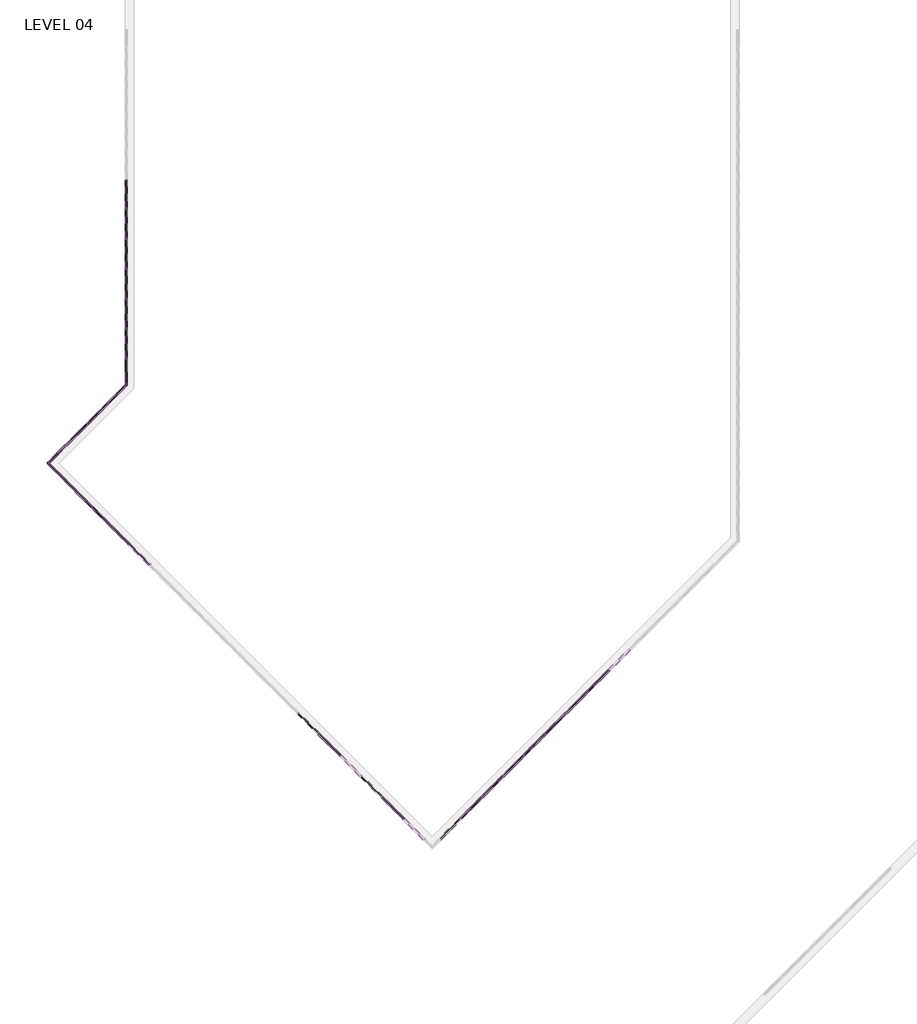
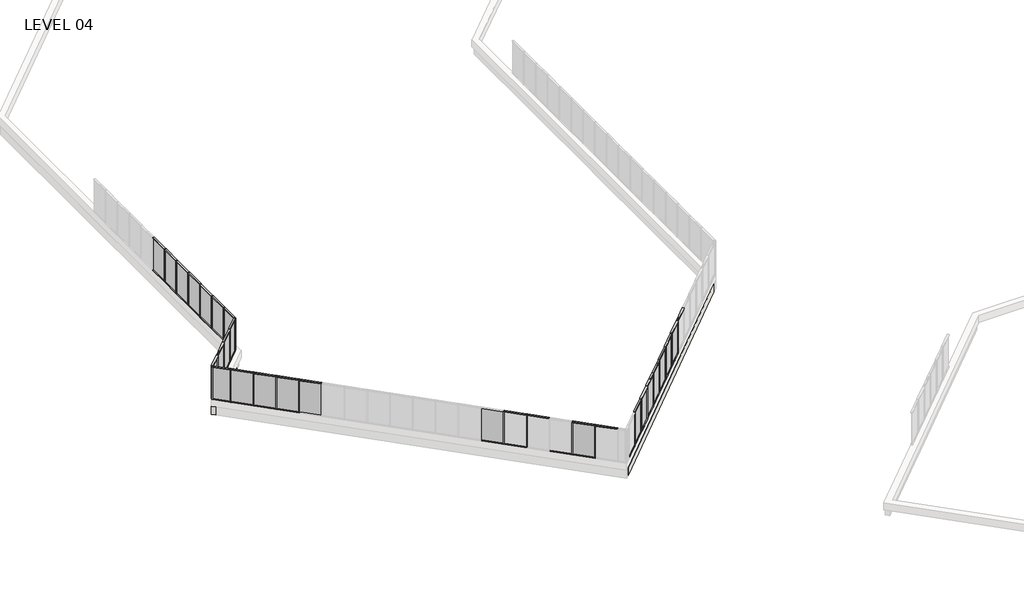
# One storey, part 3 of 17: 84 members, 25 plates, 2 walls.
"""IFC4 building model written with IfcOpenShell, lengths in millimetres."""

from ifc_helpers import new_model, si_unit, origin, place, context, project, spatial, faceted_brep, transform, mapped, element, save
from components import member_5247f267, member_e44af9ab, member_800970d4, member_45eb7f2e, member_53409b32, member_43bac76b, member_0b71a88d, plate_67294edd, plate_aaac5d3d, plate_048e4634, plate_9c66726c, plate_e0fd5134, plate_15429445, plate_0d1907f3, plate_903242d9

model = new_model("IFC4")

# Units and contexts
model_context = context("Model", 3, world=origin())
ifc_project = project(units=[si_unit("LENGTHUNIT", "METRE", prefix="MILLI")], contexts=[model_context])

# Site, building, storey
site = spatial("IfcSite", under=ifc_project)
building = spatial("IfcBuilding", under=site)
storey = spatial("IfcBuildingStorey", under=building, Name="LEVEL 04", Elevation=12052.3)

# Members
placement = place(None, origin())
member_shape = member_5247f267(model_context)
element("IfcMember", 1, ObjectType="Rectangular Mullion : 2\" x 4.5\" rectangular", at=placement, inside=storey, context=model_context, shape_type="MappedRepresentation", body=[
    mapped(member_shape, transform((-32784.0347164, 49110.5675885, 14643.1), x_axis=(0.0, 0.0, 1.0), y_axis=(1.0, 0.0, 0.0), z_axis=(0.0, 1.0, 0.0))),
])
element("IfcMember", 2, ObjectType="Rectangular Mullion : 2\" x 4.5\" rectangular", at=placement, inside=storey, context=model_context, shape_type="MappedRepresentation", body=[
    mapped(member_shape, transform((-32784.0347164, 50634.5675885, 14643.1), x_axis=(0.0, 0.0, 1.0), y_axis=(1.0, 0.0, 0.0), z_axis=(0.0, 1.0, 0.0))),
])
element("IfcMember", 3, ObjectType="Rectangular Mullion : 2\" x 4.5\" rectangular", at=placement, inside=storey, context=model_context, shape_type="MappedRepresentation", body=[
    mapped(member_shape, transform((-32784.0347164, 56730.5675885, 14643.1), x_axis=(0.0, 0.0, 1.0), y_axis=(1.0, 0.0, 0.0), z_axis=(0.0, 1.0, 0.0))),
])
element("IfcMember", 4, ObjectType="Rectangular Mullion : 2\" x 4.5\" rectangular", at=placement, inside=storey, context=model_context, shape_type="MappedRepresentation", body=[
    mapped(member_shape, transform((-32784.0347164, 52158.5675885, 14643.1), x_axis=(0.0, 0.0, 1.0), y_axis=(1.0, 0.0, 0.0), z_axis=(0.0, 1.0, 0.0))),
])
element("IfcMember", 5, ObjectType="Rectangular Mullion : 2\" x 4.5\" rectangular", at=placement, inside=storey, context=model_context, shape_type="MappedRepresentation", body=[
    mapped(member_shape, transform((-32784.0347164, 55206.5675885, 14643.1), x_axis=(0.0, 0.0, 1.0), y_axis=(1.0, 0.0, 0.0), z_axis=(0.0, 1.0, 0.0))),
])
element("IfcMember", 6, ObjectType="Rectangular Mullion : 2\" x 4.5\" rectangular", at=placement, inside=storey, context=model_context, shape_type="MappedRepresentation", body=[
    mapped(member_shape, transform((-32784.0347164, 53682.5675885, 14643.1), x_axis=(0.0, 0.0, 1.0), y_axis=(1.0, 0.0, 0.0), z_axis=(0.0, 1.0, 0.0))),
])
element("IfcMember", 7, ObjectType="Rectangular Mullion : 2\" x 4.5\" rectangular", at=placement, inside=storey, context=model_context, shape_type="MappedRepresentation", body=[
    mapped(member_shape, transform((-8176.5824051, 31737.5637642, 14643.1), x_axis=(0.0, 0.0, 1.0), y_axis=(-0.7071067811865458, 0.7071067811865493, 0.0), z_axis=(-0.7071067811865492, -0.7071067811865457, 0.0))),
])
element("IfcMember", 8, ObjectType="Rectangular Mullion : 2\" x 4.5\" rectangular", at=placement, inside=storey, context=model_context, shape_type="MappedRepresentation", body=[
    mapped(member_shape, transform((-9254.1983379, 30659.9478314, 14643.1), x_axis=(0.0, 0.0, 1.0), y_axis=(-0.7071067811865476, 0.7071067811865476, 0.0), z_axis=(-0.7071067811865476, -0.7071067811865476, 0.0))),
])
element("IfcMember", 9, ObjectType="Rectangular Mullion : 2\" x 4.5\" rectangular", at=placement, inside=storey, context=model_context, shape_type="MappedRepresentation", body=[
    mapped(member_shape, transform((-10331.8142707, 29582.3318986, 14643.1), x_axis=(0.0, 0.0, 1.0), y_axis=(-0.7071067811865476, 0.7071067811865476, 0.0), z_axis=(-0.7071067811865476, -0.7071067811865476, 0.0))),
])
element("IfcMember", 10, ObjectType="Rectangular Mullion : 2\" x 4.5\" rectangular", at=placement, inside=storey, context=model_context, shape_type="MappedRepresentation", body=[
    mapped(member_shape, transform((-11409.4302035, 28504.7159658, 14643.1), x_axis=(0.0, 0.0, 1.0), y_axis=(-0.7071067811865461, 0.707106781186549, 0.0), z_axis=(-0.707106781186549, -0.7071067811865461, 0.0))),
])
element("IfcMember", 11, ObjectType="Rectangular Mullion : 2\" x 4.5\" rectangular", at=placement, inside=storey, context=model_context, shape_type="MappedRepresentation", body=[
    mapped(member_shape, transform((-13564.6768709, 26349.4692984, 14643.1), x_axis=(0.0, 0.0, 1.0), y_axis=(-0.7071067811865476, 0.7071067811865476, 0.0), z_axis=(-0.7071067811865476, -0.7071067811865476, 0.0))),
])
element("IfcMember", 12, ObjectType="Rectangular Mullion : 2\" x 4.5\" rectangular", at=placement, inside=storey, context=model_context, shape_type="MappedRepresentation", body=[
    mapped(member_shape, transform((-12487.0535372, 27427.0926321, 14643.1), x_axis=(0.0, 0.0, 1.0), y_axis=(-0.7071067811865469, 0.7071067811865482, 0.0), z_axis=(-0.7071067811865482, -0.7071067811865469, 0.0))),
])
element("IfcMember", 13, ObjectType="Rectangular Mullion : 2\" x 4.5\" rectangular", at=placement, inside=storey, context=model_context, shape_type="MappedRepresentation", body=[
    mapped(member_shape, transform((-14642.3076054, 25271.8385639, 14643.1), x_axis=(0.0, 0.0, 1.0), y_axis=(-0.7071067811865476, 0.7071067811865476, 0.0), z_axis=(-0.7071067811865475, -0.7071067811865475, 0.0))),
])
element("IfcMember", 14, ObjectType="Rectangular Mullion : 2\" x 4.5\" rectangular", at=placement, inside=storey, context=model_context, shape_type="MappedRepresentation", body=[
    mapped(member_shape, transform((-15719.9383399, 24194.2078294, 14643.1), x_axis=(0.0, 0.0, 1.0), y_axis=(-0.7071067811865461, 0.7071067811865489, 0.0), z_axis=(-0.7071067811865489, -0.7071067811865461, 0.0))),
])
element("IfcMember", 15, ObjectType="Rectangular Mullion : 2\" x 4.5\" rectangular", at=placement, inside=storey, context=model_context, shape_type="MappedRepresentation", body=[
    mapped(member_shape, transform((-19717.6908029, 25235.9175394, 14643.1), x_axis=(0.0, 0.0, 1.0), y_axis=(0.7071067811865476, 0.7071067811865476, 0.0), z_axis=(-0.7071067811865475, 0.7071067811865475, 0.0))),
])
element("IfcMember", 16, ObjectType="Rectangular Mullion : 2\" x 4.5\" rectangular", at=placement, inside=storey, context=model_context, shape_type="MappedRepresentation", body=[
    mapped(member_shape, transform((-22950.547272, 28468.7740085, 14643.1), x_axis=(0.0, 0.0, 1.0), y_axis=(0.7071067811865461, 0.707106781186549, 0.0), z_axis=(-0.707106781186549, 0.7071067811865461, 0.0))),
])
element("IfcMember", 17, ObjectType="Rectangular Mullion : 2\" x 4.5\" rectangular", at=placement, inside=storey, context=model_context, shape_type="MappedRepresentation", body=[
    mapped(member_shape, transform((-18640.0600684, 24158.2868049, 14643.1), x_axis=(0.0, 0.0, 1.0), y_axis=(0.7071067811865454, 0.7071067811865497, 0.0), z_axis=(-0.7071067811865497, 0.7071067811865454, 0.0))),
])
element("IfcMember", 18, ObjectType="Rectangular Mullion : 2\" x 4.5\" rectangular", at=placement, inside=storey, context=model_context, shape_type="MappedRepresentation", body=[
    mapped(member_shape, transform((-21872.9344047, 27391.1611412, 14643.1), x_axis=(0.0, 0.0, 1.0), y_axis=(0.7071067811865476, 0.7071067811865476, 0.0), z_axis=(-0.7071067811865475, 0.7071067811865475, 0.0))),
])
element("IfcMember", 19, ObjectType="Rectangular Mullion : 2\" x 4.5\" rectangular", at=placement, inside=storey, context=model_context, shape_type="MappedRepresentation", body=[
    mapped(member_shape, transform((-32625.1316457, 38143.3583822, 14643.1), x_axis=(0.0, 0.0, 1.0), y_axis=(0.7071067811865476, 0.7071067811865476, 0.0), z_axis=(-0.7071067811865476, 0.7071067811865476, 0.0))),
])
element("IfcMember", 20, ObjectType="Rectangular Mullion : 2\" x 4.5\" rectangular", at=placement, inside=storey, context=model_context, shape_type="MappedRepresentation", body=[
    mapped(member_shape, transform((-33702.7623802, 39220.9891167, 14643.1), x_axis=(0.0, 0.0, 1.0), y_axis=(0.7071067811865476, 0.7071067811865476, 0.0), z_axis=(-0.7071067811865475, 0.7071067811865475, 0.0))),
])
element("IfcMember", 21, ObjectType="Rectangular Mullion : 2\" x 4.5\" rectangular", at=placement, inside=storey, context=model_context, shape_type="MappedRepresentation", body=[
    mapped(member_shape, transform((-34780.3931147, 40298.6198512, 14643.1), x_axis=(0.0, 0.0, 1.0), y_axis=(0.7071067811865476, 0.7071067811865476, 0.0), z_axis=(-0.7071067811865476, 0.7071067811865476, 0.0))),
])
element("IfcMember", 22, ObjectType="Rectangular Mullion : 2\" x 4.5\" rectangular", at=placement, inside=storey, context=model_context, shape_type="MappedRepresentation", body=[
    mapped(member_shape, transform((-35858.0238493, 41376.2505858, 14643.1), x_axis=(0.0, 0.0, 1.0), y_axis=(0.7071067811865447, 0.7071067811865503, 0.0), z_axis=(-0.7071067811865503, 0.7071067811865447, 0.0))),
])
element("IfcMember", 23, ObjectType="Rectangular Mullion : 2\" x 4.5\" rectangular", at=placement, inside=storey, context=model_context, shape_type="MappedRepresentation", body=[
    mapped(member_shape, transform((-34789.2847655, 44248.423675, 14643.1), x_axis=(0.0, 0.0, 1.0), y_axis=(0.7071067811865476, -0.7071067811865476, 0.0), z_axis=(0.7071067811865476, 0.7071067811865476, 0.0))),
])
element("IfcMember", 24, ObjectType="Rectangular Mullion : 2\" x 4.5\" rectangular", at=placement, inside=storey, context=model_context, shape_type="MappedRepresentation", body=[
    mapped(member_shape, transform((-33711.654031, 45326.0544096, 14643.1), x_axis=(0.0, 0.0, 1.0), y_axis=(0.7071067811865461, -0.707106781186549, 0.0), z_axis=(0.7071067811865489, 0.707106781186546, 0.0))),
])
element("IfcMember", 25, ObjectType="Rectangular Mullion : 2\" x 4.5\" rectangular", at=placement, inside=storey, context=model_context, shape_type="MappedRepresentation", body=[
    mapped(member_shape, transform((-32784.0347164, 47637.3675885, 12052.3), x_axis=(0.0, 0.0, -1.0), y_axis=(1.0, 0.0, 0.0), z_axis=(0.0, -1.0, 0.0))),
])
element("IfcMember", 26, ObjectType="Rectangular Mullion : 2\" x 4.5\" rectangular", at=placement, inside=storey, context=model_context, shape_type="MappedRepresentation", body=[
    mapped(member_shape, transform((-32784.0347164, 49161.3675885, 12052.3), x_axis=(0.0, 0.0, -1.0), y_axis=(1.0, 0.0, 0.0), z_axis=(0.0, -1.0, 0.0))),
])
element("IfcMember", 27, ObjectType="Rectangular Mullion : 2\" x 4.5\" rectangular", at=placement, inside=storey, context=model_context, shape_type="MappedRepresentation", body=[
    mapped(member_shape, transform((-32784.0347164, 50685.3675885, 12052.3), x_axis=(0.0, 0.0, -1.0), y_axis=(1.0, 0.0, 0.0), z_axis=(0.0, -1.0, 0.0))),
])
element("IfcMember", 28, ObjectType="Rectangular Mullion : 2\" x 4.5\" rectangular", at=placement, inside=storey, context=model_context, shape_type="MappedRepresentation", body=[
    mapped(member_shape, transform((-32784.0347164, 52209.3675885, 12052.3), x_axis=(0.0, 0.0, -1.0), y_axis=(1.0, 0.0, 0.0), z_axis=(0.0, -1.0, 0.0))),
])
element("IfcMember", 29, ObjectType="Rectangular Mullion : 2\" x 4.5\" rectangular", at=placement, inside=storey, context=model_context, shape_type="MappedRepresentation", body=[
    mapped(member_shape, transform((-32784.0347164, 55257.3675885, 12052.3), x_axis=(0.0, 0.0, -1.0), y_axis=(1.0, 0.0, 0.0), z_axis=(0.0, -1.0, 0.0))),
])
element("IfcMember", 30, ObjectType="Rectangular Mullion : 2\" x 4.5\" rectangular", at=placement, inside=storey, context=model_context, shape_type="MappedRepresentation", body=[
    mapped(member_shape, transform((-32784.0347164, 53733.3675885, 12052.3), x_axis=(0.0, 0.0, -1.0), y_axis=(1.0, 0.0, 0.0), z_axis=(0.0, -1.0, 0.0))),
])
element("IfcMember", 31, ObjectType="Rectangular Mullion : 2\" x 4.5\" rectangular", at=placement, inside=storey, context=model_context, shape_type="MappedRepresentation", body=[
    mapped(member_shape, transform((-8212.5034296, 31701.6427397, 12052.3), x_axis=(0.0, 0.0, -1.0), y_axis=(-0.7071067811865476, 0.7071067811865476, 0.0), z_axis=(0.7071067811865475, 0.7071067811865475, 0.0))),
])
element("IfcMember", 32, ObjectType="Rectangular Mullion : 2\" x 4.5\" rectangular", at=placement, inside=storey, context=model_context, shape_type="MappedRepresentation", body=[
    mapped(member_shape, transform((-9290.1193624, 30624.0268069, 12052.3), x_axis=(0.0, 0.0, -1.0), y_axis=(-0.7071067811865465, 0.7071067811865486, 0.0), z_axis=(0.7071067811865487, 0.7071067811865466, 0.0))),
])
element("IfcMember", 33, ObjectType="Rectangular Mullion : 2\" x 4.5\" rectangular", at=placement, inside=storey, context=model_context, shape_type="MappedRepresentation", body=[
    mapped(member_shape, transform((-10367.7352952, 29546.4108741, 12052.3), x_axis=(0.0, 0.0, -1.0), y_axis=(-0.7071067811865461, 0.707106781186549, 0.0), z_axis=(0.707106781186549, 0.7071067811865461, 0.0))),
])
element("IfcMember", 34, ObjectType="Rectangular Mullion : 2\" x 4.5\" rectangular", at=placement, inside=storey, context=model_context, shape_type="MappedRepresentation", body=[
    mapped(member_shape, transform((-11445.351228, 28468.7949413, 12052.3), x_axis=(0.0, 0.0, -1.0), y_axis=(-0.7071067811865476, 0.7071067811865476, 0.0), z_axis=(0.7071067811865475, 0.7071067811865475, 0.0))),
])
element("IfcMember", 35, ObjectType="Rectangular Mullion : 2\" x 4.5\" rectangular", at=placement, inside=storey, context=model_context, shape_type="MappedRepresentation", body=[
    mapped(member_shape, transform((-13600.5978954, 26313.5482739, 12052.3), x_axis=(0.0, 0.0, -1.0), y_axis=(-0.7071067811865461, 0.7071067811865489, 0.0), z_axis=(0.7071067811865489, 0.7071067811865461, 0.0))),
])
element("IfcMember", 36, ObjectType="Rectangular Mullion : 2\" x 4.5\" rectangular", at=placement, inside=storey, context=model_context, shape_type="MappedRepresentation", body=[
    mapped(member_shape, transform((-12522.9745617, 27391.1716076, 12052.3), x_axis=(0.0, 0.0, -1.0), y_axis=(-0.7071067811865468, 0.7071067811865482, 0.0), z_axis=(0.7071067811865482, 0.7071067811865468, 0.0))),
])
element("IfcMember", 37, ObjectType="Rectangular Mullion : 2\" x 4.5\" rectangular", at=placement, inside=storey, context=model_context, shape_type="MappedRepresentation", body=[
    mapped(member_shape, transform((-14678.2286299, 25235.9175394, 12052.3), x_axis=(0.0, 0.0, -1.0), y_axis=(-0.7071067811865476, 0.7071067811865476, 0.0), z_axis=(0.7071067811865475, 0.7071067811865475, 0.0))),
])
element("IfcMember", 38, ObjectType="Rectangular Mullion : 2\" x 4.5\" rectangular", at=placement, inside=storey, context=model_context, shape_type="MappedRepresentation", body=[
    mapped(member_shape, transform((-15755.8593644, 24158.2868049, 12052.3), x_axis=(0.0, 0.0, -1.0), y_axis=(-0.7071067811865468, 0.7071067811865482, 0.0), z_axis=(0.7071067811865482, 0.7071067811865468, 0.0))),
])
element("IfcMember", 39, ObjectType="Rectangular Mullion : 2\" x 4.5\" rectangular", at=placement, inside=storey, context=model_context, shape_type="MappedRepresentation", body=[
    mapped(member_shape, transform((-19753.6118274, 25271.8385639, 12052.3), x_axis=(0.0, 0.0, -1.0), y_axis=(0.7071067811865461, 0.707106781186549, 0.0), z_axis=(0.7071067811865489, -0.707106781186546, 0.0))),
])
element("IfcMember", 40, ObjectType="Rectangular Mullion : 2\" x 4.5\" rectangular", at=placement, inside=storey, context=model_context, shape_type="MappedRepresentation", body=[
    mapped(member_shape, transform((-22986.4682965, 28504.6950329, 12052.3), x_axis=(0.0, 0.0, -1.0), y_axis=(0.7071067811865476, 0.7071067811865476, 0.0), z_axis=(0.7071067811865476, -0.7071067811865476, 0.0))),
])
element("IfcMember", 41, ObjectType="Rectangular Mullion : 2\" x 4.5\" rectangular", at=placement, inside=storey, context=model_context, shape_type="MappedRepresentation", body=[
    mapped(member_shape, transform((-18675.9810929, 24194.2078294, 12052.3), x_axis=(0.0, 0.0, -1.0), y_axis=(0.7071067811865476, 0.7071067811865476, 0.0), z_axis=(0.7071067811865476, -0.7071067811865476, 0.0))),
])
element("IfcMember", 42, ObjectType="Rectangular Mullion : 2\" x 4.5\" rectangular", at=placement, inside=storey, context=model_context, shape_type="MappedRepresentation", body=[
    mapped(member_shape, transform((-21908.8554292, 27427.0821657, 12052.3), x_axis=(0.0, 0.0, -1.0), y_axis=(0.7071067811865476, 0.7071067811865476, 0.0), z_axis=(0.7071067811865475, -0.7071067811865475, 0.0))),
])
element("IfcMember", 43, ObjectType="Rectangular Mullion : 2\" x 4.5\" rectangular", at=placement, inside=storey, context=model_context, shape_type="MappedRepresentation", body=[
    mapped(member_shape, transform((-32661.0526702, 38179.2794067, 12052.3), x_axis=(0.0, 0.0, -1.0), y_axis=(0.7071067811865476, 0.7071067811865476, 0.0), z_axis=(0.7071067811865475, -0.7071067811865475, 0.0))),
])
element("IfcMember", 44, ObjectType="Rectangular Mullion : 2\" x 4.5\" rectangular", at=placement, inside=storey, context=model_context, shape_type="MappedRepresentation", body=[
    mapped(member_shape, transform((-33738.6834047, 39256.9101412, 12052.3), x_axis=(0.0, 0.0, -1.0), y_axis=(0.7071067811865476, 0.7071067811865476, 0.0), z_axis=(0.7071067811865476, -0.7071067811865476, 0.0))),
])
element("IfcMember", 45, ObjectType="Rectangular Mullion : 2\" x 4.5\" rectangular", at=placement, inside=storey, context=model_context, shape_type="MappedRepresentation", body=[
    mapped(member_shape, transform((-34816.3141392, 40334.5408757, 12052.3), x_axis=(0.0, 0.0, -1.0), y_axis=(0.7071067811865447, 0.7071067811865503, 0.0), z_axis=(0.7071067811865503, -0.7071067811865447, 0.0))),
])
element("IfcMember", 46, ObjectType="Rectangular Mullion : 2\" x 4.5\" rectangular", at=placement, inside=storey, context=model_context, shape_type="MappedRepresentation", body=[
    mapped(member_shape, transform((-34753.363741, 44284.3446995, 12052.3), x_axis=(0.0, 0.0, -1.0), y_axis=(0.7071067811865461, -0.707106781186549, 0.0), z_axis=(-0.7071067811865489, -0.707106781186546, 0.0))),
])
element("IfcMember", 47, ObjectType="Rectangular Mullion : 2\" x 4.5\" rectangular", at=placement, inside=storey, context=model_context, shape_type="MappedRepresentation", body=[
    mapped(member_shape, transform((-35830.9944756, 43206.713965, 12052.3), x_axis=(0.0, 0.0, -1.0), y_axis=(0.7071067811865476, -0.7071067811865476, 0.0), z_axis=(-0.7071067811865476, -0.7071067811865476, 0.0))),
])
member_2_shape = member_e44af9ab(model_context)
element("IfcMember", 48, ObjectType="Rectangular Mullion : 2\" x 4.5\" rectangular", at=placement, inside=storey, context=model_context, shape_type="MappedRepresentation", body=[
    mapped(member_2_shape, transform((-32784.0347164, 47611.9675885, 12052.3), x_axis=(0.0, 1.0, 0.0), y_axis=(1.0, 0.0, 0.0), z_axis=(0.0, 0.0, -1.0))),
])
element("IfcMember", 49, ObjectType="Rectangular Mullion : 2\" x 4.5\" rectangular", at=placement, inside=storey, context=model_context, shape_type="MappedRepresentation", body=[
    mapped(member_2_shape, transform((-32784.0347164, 49135.9675885, 12052.3), x_axis=(0.0, 1.0, 0.0), y_axis=(1.0, 0.0, 0.0), z_axis=(0.0, 0.0, -1.0))),
])
element("IfcMember", 50, ObjectType="Rectangular Mullion : 2\" x 4.5\" rectangular", at=placement, inside=storey, context=model_context, shape_type="MappedRepresentation", body=[
    mapped(member_2_shape, transform((-32784.0347164, 50659.9675885, 12052.3), x_axis=(0.0, 1.0, 0.0), y_axis=(1.0, 0.0, 0.0), z_axis=(0.0, 0.0, -1.0))),
])
element("IfcMember", 51, ObjectType="Rectangular Mullion : 2\" x 4.5\" rectangular", at=placement, inside=storey, context=model_context, shape_type="MappedRepresentation", body=[
    mapped(member_2_shape, transform((-32784.0347164, 52183.9675885, 12052.3), x_axis=(0.0, 1.0, 0.0), y_axis=(1.0, 0.0, 0.0), z_axis=(0.0, 0.0, -1.0))),
])
element("IfcMember", 52, ObjectType="Rectangular Mullion : 2\" x 4.5\" rectangular", at=placement, inside=storey, context=model_context, shape_type="MappedRepresentation", body=[
    mapped(member_2_shape, transform((-32784.0347164, 55231.9675885, 12052.3), x_axis=(0.0, 1.0, 0.0), y_axis=(1.0, 0.0, 0.0), z_axis=(0.0, 0.0, -1.0))),
])
element("IfcMember", 53, ObjectType="Rectangular Mullion : 2\" x 4.5\" rectangular", at=placement, inside=storey, context=model_context, shape_type="MappedRepresentation", body=[
    mapped(member_2_shape, transform((-32784.0347164, 53707.9675885, 12052.3), x_axis=(0.0, 1.0, 0.0), y_axis=(1.0, 0.0, 0.0), z_axis=(0.0, 0.0, -1.0))),
])
element("IfcMember", 54, ObjectType="Rectangular Mullion : 2\" x 4.5\" rectangular", at=placement, inside=storey, context=model_context, shape_type="MappedRepresentation", body=[
    mapped(member_2_shape, transform((-8194.5429174, 31719.6032519, 12052.3), x_axis=(-0.7071067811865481, -0.7071067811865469, 0.0), y_axis=(-0.7071067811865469, 0.7071067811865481, 0.0), z_axis=(0.0, 0.0, -1.0))),
])
element("IfcMember", 55, ObjectType="Rectangular Mullion : 2\" x 4.5\" rectangular", at=placement, inside=storey, context=model_context, shape_type="MappedRepresentation", body=[
    mapped(member_2_shape, transform((-9272.1588502, 30641.9873191, 12052.3), x_axis=(-0.7071067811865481, -0.7071067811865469, 0.0), y_axis=(-0.7071067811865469, 0.7071067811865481, 0.0), z_axis=(0.0, 0.0, -1.0))),
])
element("IfcMember", 56, ObjectType="Rectangular Mullion : 2\" x 4.5\" rectangular", at=placement, inside=storey, context=model_context, shape_type="MappedRepresentation", body=[
    mapped(member_2_shape, transform((-10349.774783, 29564.3713863, 12052.3), x_axis=(-0.7071067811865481, -0.7071067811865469, 0.0), y_axis=(-0.7071067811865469, 0.7071067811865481, 0.0), z_axis=(0.0, 0.0, -1.0))),
])
element("IfcMember", 57, ObjectType="Rectangular Mullion : 2\" x 4.5\" rectangular", at=placement, inside=storey, context=model_context, shape_type="MappedRepresentation", body=[
    mapped(member_2_shape, transform((-11427.3907158, 28486.7554535, 12052.3), x_axis=(-0.7071067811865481, -0.7071067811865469, 0.0), y_axis=(-0.7071067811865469, 0.7071067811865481, 0.0), z_axis=(0.0, 0.0, -1.0))),
])
element("IfcMember", 58, ObjectType="Rectangular Mullion : 2\" x 4.5\" rectangular", at=placement, inside=storey, context=model_context, shape_type="MappedRepresentation", body=[
    mapped(member_2_shape, transform((-13582.6373831, 26331.5087862, 12052.3), x_axis=(-0.7071067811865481, -0.7071067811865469, 0.0), y_axis=(-0.7071067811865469, 0.7071067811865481, 0.0), z_axis=(0.0, 0.0, -1.0))),
])
element("IfcMember", 59, ObjectType="Rectangular Mullion : 2\" x 4.5\" rectangular", at=placement, inside=storey, context=model_context, shape_type="MappedRepresentation", body=[
    mapped(member_2_shape, transform((-12505.0140495, 27409.1321198, 12052.3), x_axis=(-0.7071067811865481, -0.7071067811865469, 0.0), y_axis=(-0.7071067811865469, 0.7071067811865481, 0.0), z_axis=(0.0, 0.0, -1.0))),
])
element("IfcMember", 60, ObjectType="Rectangular Mullion : 2\" x 4.5\" rectangular", at=placement, inside=storey, context=model_context, shape_type="MappedRepresentation", body=[
    mapped(member_2_shape, transform((-14660.2681176, 25253.8780517, 12052.3), x_axis=(-0.7071067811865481, -0.7071067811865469, 0.0), y_axis=(-0.7071067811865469, 0.7071067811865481, 0.0), z_axis=(0.0, 0.0, -1.0))),
])
element("IfcMember", 61, ObjectType="Rectangular Mullion : 2\" x 4.5\" rectangular", at=placement, inside=storey, context=model_context, shape_type="MappedRepresentation", body=[
    mapped(member_2_shape, transform((-15737.8988522, 24176.2473171, 12052.3), x_axis=(-0.7071067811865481, -0.7071067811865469, 0.0), y_axis=(-0.7071067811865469, 0.7071067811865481, 0.0), z_axis=(0.0, 0.0, -1.0))),
])
element("IfcMember", 62, ObjectType="Rectangular Mullion : 2\" x 4.5\" rectangular", at=placement, inside=storey, context=model_context, shape_type="MappedRepresentation", body=[
    mapped(member_2_shape, transform((-19735.6513152, 25253.8780517, 12052.3), x_axis=(-0.7071067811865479, 0.7071067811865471, 0.0), y_axis=(0.7071067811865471, 0.7071067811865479, 0.0), z_axis=(0.0, 0.0, -1.0))),
])
element("IfcMember", 63, ObjectType="Rectangular Mullion : 2\" x 4.5\" rectangular", at=placement, inside=storey, context=model_context, shape_type="MappedRepresentation", body=[
    mapped(member_2_shape, transform((-22968.5077842, 28486.7345207, 12052.3), x_axis=(-0.7071067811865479, 0.7071067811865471, 0.0), y_axis=(0.7071067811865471, 0.7071067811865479, 0.0), z_axis=(0.0, 0.0, -1.0))),
])
element("IfcMember", 64, ObjectType="Rectangular Mullion : 2\" x 4.5\" rectangular", at=placement, inside=storey, context=model_context, shape_type="MappedRepresentation", body=[
    mapped(member_2_shape, transform((-18658.0205806, 24176.2473171, 12052.3), x_axis=(-0.7071067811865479, 0.7071067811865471, 0.0), y_axis=(0.7071067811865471, 0.7071067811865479, 0.0), z_axis=(0.0, 0.0, -1.0))),
])
element("IfcMember", 65, ObjectType="Rectangular Mullion : 2\" x 4.5\" rectangular", at=placement, inside=storey, context=model_context, shape_type="MappedRepresentation", body=[
    mapped(member_2_shape, transform((-21890.894917, 27409.1216534, 12052.3), x_axis=(-0.7071067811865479, 0.7071067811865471, 0.0), y_axis=(0.7071067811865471, 0.7071067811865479, 0.0), z_axis=(0.0, 0.0, -1.0))),
])
element("IfcMember", 66, ObjectType="Rectangular Mullion : 2\" x 4.5\" rectangular", at=placement, inside=storey, context=model_context, shape_type="MappedRepresentation", body=[
    mapped(member_2_shape, transform((-32643.0921579, 38161.3188944, 12052.3), x_axis=(-0.7071067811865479, 0.7071067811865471, 0.0), y_axis=(0.7071067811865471, 0.7071067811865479, 0.0), z_axis=(0.0, 0.0, -1.0))),
])
element("IfcMember", 67, ObjectType="Rectangular Mullion : 2\" x 4.5\" rectangular", at=placement, inside=storey, context=model_context, shape_type="MappedRepresentation", body=[
    mapped(member_2_shape, transform((-33720.7228924, 39238.9496289, 12052.3), x_axis=(-0.7071067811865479, 0.7071067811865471, 0.0), y_axis=(0.7071067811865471, 0.7071067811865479, 0.0), z_axis=(0.0, 0.0, -1.0))),
])
element("IfcMember", 68, ObjectType="Rectangular Mullion : 2\" x 4.5\" rectangular", at=placement, inside=storey, context=model_context, shape_type="MappedRepresentation", body=[
    mapped(member_2_shape, transform((-34798.353627, 40316.5803635, 12052.3), x_axis=(-0.7071067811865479, 0.7071067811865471, 0.0), y_axis=(0.7071067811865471, 0.7071067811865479, 0.0), z_axis=(0.0, 0.0, -1.0))),
])
element("IfcMember", 69, ObjectType="Rectangular Mullion : 2\" x 4.5\" rectangular", at=placement, inside=storey, context=model_context, shape_type="MappedRepresentation", body=[
    mapped(member_2_shape, transform((-35875.9843615, 41394.211098, 12052.3), x_axis=(-0.7071067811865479, 0.7071067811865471, 0.0), y_axis=(0.7071067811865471, 0.7071067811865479, 0.0), z_axis=(0.0, 0.0, -1.0))),
])
element("IfcMember", 70, ObjectType="Rectangular Mullion : 2\" x 4.5\" rectangular", at=placement, inside=storey, context=model_context, shape_type="MappedRepresentation", body=[
    mapped(member_2_shape, transform((-34771.3242533, 44266.3841873, 12052.3), x_axis=(0.7071067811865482, 0.7071067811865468, 0.0), y_axis=(0.7071067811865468, -0.7071067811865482, 0.0), z_axis=(0.0, 0.0, -1.0))),
])
element("IfcMember", 71, ObjectType="Rectangular Mullion : 2\" x 4.5\" rectangular", at=placement, inside=storey, context=model_context, shape_type="MappedRepresentation", body=[
    mapped(member_2_shape, transform((-33693.6935187, 45344.0149218, 12052.3), x_axis=(0.7071067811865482, 0.7071067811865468, 0.0), y_axis=(0.7071067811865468, -0.7071067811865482, 0.0), z_axis=(0.0, 0.0, -1.0))),
])
element("IfcMember", 72, ObjectType="Rectangular Mullion : 2\" x 4.5\" rectangular", at=placement, inside=storey, context=model_context, shape_type="MappedRepresentation", body=[
    mapped(member_2_shape, transform((-35848.9549878, 43188.7534527, 12052.3), x_axis=(0.7071067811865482, 0.7071067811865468, 0.0), y_axis=(0.7071067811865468, -0.7071067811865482, 0.0), z_axis=(0.0, 0.0, -1.0))),
])
member_3_shape = member_800970d4(model_context)
element("IfcMember", 73, ObjectType="Rectangular Mullion : 2\" x 4.5\" rectangular", at=placement, inside=storey, context=model_context, shape_type="MappedRepresentation", body=[
    mapped(member_3_shape, transform((-36759.740852, 42277.9675885, 12052.3), x_axis=(-0.7071067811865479, 0.7071067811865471, 0.0), y_axis=(0.7071067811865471, 0.7071067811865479, 0.0), z_axis=(0.0, 0.0, -1.0))),
])
element("IfcMember", 74, ObjectType="Rectangular Mullion : 2\" x 4.5\" rectangular", at=placement, inside=storey, context=model_context, shape_type="MappedRepresentation", body=[
    mapped(member_3_shape, transform((-32784.0347164, 46253.6737241, 12052.3), x_axis=(0.7071067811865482, 0.7071067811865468, 0.0), y_axis=(0.7071067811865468, -0.7071067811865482, 0.0), z_axis=(0.0, 0.0, -1.0))),
])
element("IfcMember", 75, ObjectType="Rectangular Mullion : 2\" x 4.5\" rectangular", at=placement, inside=storey, context=model_context, shape_type="MappedRepresentation", body=[
    mapped(member_3_shape, transform((-32784.0347164, 46253.6737241, 14643.1), x_axis=(0.0, -1.0, 0.0), y_axis=(1.0, 0.0, 0.0), z_axis=(0.0, 0.0, 1.0))),
])
element("IfcMember", 76, ObjectType="Rectangular Mullion : 2\" x 4.5\" rectangular", at=placement, inside=storey, context=model_context, shape_type="MappedRepresentation", body=[
    mapped(member_3_shape, transform((-36759.740852, 42277.9675885, 14643.1), x_axis=(-0.7071067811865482, -0.7071067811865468, 0.0), y_axis=(0.7071067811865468, -0.7071067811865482, 0.0), z_axis=(0.0, 0.0, 1.0))),
])
member_4_shape = member_45eb7f2e(model_context)
element("IfcMember", 77, ObjectType="Rectangular Mullion : 2\" x 4.5\" rectangular", at=placement, inside=storey, context=model_context, shape_type="MappedRepresentation", body=[
    mapped(member_4_shape, transform((-32784.0347164, 47586.5675885, 14643.1), x_axis=(0.0, 0.0, 1.0), y_axis=(1.0, 0.0, 0.0), z_axis=(0.0, 1.0, 0.0))),
])
element("IfcMember", 78, ObjectType="Rectangular Mullion : 2\" x 4.5\" rectangular", at=placement, inside=storey, context=model_context, shape_type="MappedRepresentation", body=[
    mapped(member_4_shape, transform((-32784.0347164, 46304.4737241, 12052.3), x_axis=(0.0, 0.0, -1.0), y_axis=(1.0, 0.0, 0.0), z_axis=(0.0, -1.0, 0.0))),
])
member_5_shape = member_53409b32(model_context)
element("IfcMember", 79, ObjectType="Rectangular Mullion : 2\" x 4.5\" rectangular", at=placement, inside=storey, context=model_context, shape_type="MappedRepresentation", body=[
    mapped(member_5_shape, transform((-36723.8198275, 42242.046564, 14643.1), x_axis=(0.0, 0.0, 1.0), y_axis=(0.7071067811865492, 0.7071067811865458, 0.0), z_axis=(-0.7071067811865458, 0.7071067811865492, 0.0))),
])
element("IfcMember", 80, ObjectType="Rectangular Mullion : 2\" x 4.5\" rectangular", at=placement, inside=storey, context=model_context, shape_type="MappedRepresentation", body=[
    mapped(member_5_shape, transform((-35893.9448737, 41412.1716102, 12052.3), x_axis=(0.0, 0.0, -1.0), y_axis=(0.7071067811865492, 0.7071067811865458, 0.0), z_axis=(0.7071067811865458, -0.7071067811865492, 0.0))),
])
member_6_shape = member_43bac76b(model_context)
element("IfcMember", 81, ObjectType="Rectangular Mullion : 2\" x 4.5\" rectangular", at=placement, inside=storey, context=model_context, shape_type="MappedRepresentation", body=[
    mapped(member_6_shape, transform((-32819.9557409, 46217.7526997, 14643.1), x_axis=(0.0, 0.0, 1.0), y_axis=(0.7071067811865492, -0.7071067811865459, 0.0), z_axis=(0.7071067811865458, 0.7071067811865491, 0.0))),
])
member_7_shape = member_0b71a88d(model_context)
element("IfcMember", 82, ObjectType="Rectangular Mullion : 2\" x 4.5\" rectangular", at=placement, inside=storey, context=model_context, shape_type="MappedRepresentation", body=[
    mapped(member_7_shape, transform((-36723.8198275, 42313.888613, 12052.3), x_axis=(0.0, 0.0, -1.0), y_axis=(0.7071067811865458, -0.7071067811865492, 0.0), z_axis=(-0.7071067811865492, -0.7071067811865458, 0.0))),
])
element("IfcMember", 83, ObjectType="Rectangular Mullion : 2\" x 4.5\" rectangular", at=placement, inside=storey, context=model_context, shape_type="MappedRepresentation", body=[
    mapped(member_6_shape, transform((-33675.7330065, 45361.975434, 12052.3), x_axis=(0.0, 0.0, -1.0), y_axis=(0.7071067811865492, -0.7071067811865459, 0.0), z_axis=(-0.7071067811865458, -0.7071067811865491, 0.0))),
])
element("IfcMember", 84, ObjectType="Rectangular Mullion : 2\" x 4.5\" rectangular", at=placement, inside=storey, context=model_context, shape_type="MappedRepresentation", body=[
    mapped(member_7_shape, transform((-35866.9155, 43170.7929405, 14643.1), x_axis=(0.0, 0.0, 1.0), y_axis=(0.7071067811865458, -0.7071067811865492, 0.0), z_axis=(0.7071067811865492, 0.7071067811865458, 0.0))),
])

# Plates
plate_shape = plate_67294edd(model_context)
element("IfcPlate", 85, ObjectType="System Panel : 1/4\" Glass", at=placement, inside=storey, context=model_context, shape_type="MappedRepresentation", body=[
    mapped(plate_shape, transform((-32784.0347164, 48373.9675885, 12103.1), x_axis=(0.0, 1.0, 0.0), y_axis=(-1.0, 0.0, 0.0), z_axis=(0.0, 0.0, 1.0))),
])
element("IfcPlate", 86, ObjectType="System Panel : 1/4\" Glass", at=placement, inside=storey, context=model_context, shape_type="MappedRepresentation", body=[
    mapped(plate_shape, transform((-32784.0347164, 49897.9675885, 12103.1), x_axis=(0.0, 1.0, 0.0), y_axis=(-1.0, 0.0, 0.0), z_axis=(0.0, 0.0, 1.0))),
])
element("IfcPlate", 87, ObjectType="System Panel : 1/4\" Glass", at=placement, inside=storey, context=model_context, shape_type="MappedRepresentation", body=[
    mapped(plate_shape, transform((-32784.0347164, 51421.9675885, 12103.1), x_axis=(0.0, 1.0, 0.0), y_axis=(-1.0, 0.0, 0.0), z_axis=(0.0, 0.0, 1.0))),
])
element("IfcPlate", 88, ObjectType="System Panel : 1/4\" Glass", at=placement, inside=storey, context=model_context, shape_type="MappedRepresentation", body=[
    mapped(plate_shape, transform((-32784.0347164, 52945.9675885, 12103.1), x_axis=(0.0, 1.0, 0.0), y_axis=(-1.0, 0.0, 0.0), z_axis=(0.0, 0.0, 1.0))),
])
element("IfcPlate", 89, ObjectType="System Panel : 1/4\" Glass", at=placement, inside=storey, context=model_context, shape_type="MappedRepresentation", body=[
    mapped(plate_shape, transform((-32784.0347164, 55993.9675885, 12103.1), x_axis=(0.0, 1.0, 0.0), y_axis=(-1.0, 0.0, 0.0), z_axis=(0.0, 0.0, 1.0))),
])
element("IfcPlate", 90, ObjectType="System Panel : 1/4\" Glass", at=placement, inside=storey, context=model_context, shape_type="MappedRepresentation", body=[
    mapped(plate_shape, transform((-32784.0347164, 54469.9675885, 12103.1), x_axis=(0.0, 1.0, 0.0), y_axis=(-1.0, 0.0, 0.0), z_axis=(0.0, 0.0, 1.0))),
])
element("IfcPlate", 91, ObjectType="System Panel : 1/4\" Glass", at=placement, inside=storey, context=model_context, shape_type="MappedRepresentation", body=[
    mapped(plate_shape, transform((-14121.4527504, 25792.6934189, 12103.1), x_axis=(-0.7071067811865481, -0.7071067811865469, 0.0), y_axis=(0.7071067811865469, -0.7071067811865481, 0.0), z_axis=(0.0, 0.0, 1.0))),
])
element("IfcPlate", 92, ObjectType="System Panel : 1/4\" Glass", at=placement, inside=storey, context=model_context, shape_type="MappedRepresentation", body=[
    mapped(plate_shape, transform((-15199.0834849, 24715.0626844, 12103.1), x_axis=(-0.7071067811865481, -0.7071067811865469, 0.0), y_axis=(0.7071067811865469, -0.7071067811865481, 0.0), z_axis=(0.0, 0.0, 1.0))),
])
element("IfcPlate", 93, ObjectType="System Panel : 1/4\" Glass", at=placement, inside=storey, context=model_context, shape_type="MappedRepresentation", body=[
    mapped(plate_shape, transform((-32104.2767907, 37622.5035271, 12103.1), x_axis=(-0.7071067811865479, 0.7071067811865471, 0.0), y_axis=(-0.7071067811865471, -0.7071067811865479, 0.0), z_axis=(0.0, 0.0, 1.0))),
])
element("IfcPlate", 94, ObjectType="System Panel : 1/4\" Glass", at=placement, inside=storey, context=model_context, shape_type="MappedRepresentation", body=[
    mapped(plate_shape, transform((-19196.8359479, 24715.0626844, 12103.1), x_axis=(-0.7071067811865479, 0.7071067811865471, 0.0), y_axis=(-0.7071067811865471, -0.7071067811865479, 0.0), z_axis=(0.0, 0.0, 1.0))),
])
element("IfcPlate", 95, ObjectType="System Panel : 1/4\" Glass", at=placement, inside=storey, context=model_context, shape_type="MappedRepresentation", body=[
    mapped(plate_shape, transform((-33181.9075252, 38700.1342617, 12103.1), x_axis=(-0.7071067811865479, 0.7071067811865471, 0.0), y_axis=(-0.7071067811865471, -0.7071067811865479, 0.0), z_axis=(0.0, 0.0, 1.0))),
])
element("IfcPlate", 96, ObjectType="System Panel : 1/4\" Glass", at=placement, inside=storey, context=model_context, shape_type="MappedRepresentation", body=[
    mapped(plate_shape, transform((-34259.5382597, 39777.7649962, 12103.1), x_axis=(-0.7071067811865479, 0.7071067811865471, 0.0), y_axis=(-0.7071067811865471, -0.7071067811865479, 0.0), z_axis=(0.0, 0.0, 1.0))),
])
element("IfcPlate", 97, ObjectType="System Panel : 1/4\" Glass", at=placement, inside=storey, context=model_context, shape_type="MappedRepresentation", body=[
    mapped(plate_shape, transform((-35337.1689942, 40855.3957307, 12103.1), x_axis=(-0.7071067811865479, 0.7071067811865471, 0.0), y_axis=(-0.7071067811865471, -0.7071067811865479, 0.0), z_axis=(0.0, 0.0, 1.0))),
])
element("IfcPlate", 98, ObjectType="System Panel : 1/4\" Glass", at=placement, inside=storey, context=model_context, shape_type="MappedRepresentation", body=[
    mapped(plate_shape, transform((-34232.508886, 44805.1995545, 12103.1), x_axis=(0.7071067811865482, 0.7071067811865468, 0.0), y_axis=(-0.7071067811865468, 0.7071067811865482, 0.0), z_axis=(0.0, 0.0, 1.0))),
])
element("IfcPlate", 99, ObjectType="System Panel : 1/4\" Glass", at=placement, inside=storey, context=model_context, shape_type="MappedRepresentation", body=[
    mapped(plate_shape, transform((-35310.1396205, 43727.56882, 12103.1), x_axis=(0.7071067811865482, 0.7071067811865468, 0.0), y_axis=(-0.7071067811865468, 0.7071067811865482, 0.0), z_axis=(0.0, 0.0, 1.0))),
])
plate_2_shape = plate_aaac5d3d(model_context)
element("IfcPlate", 100, ObjectType="System Panel : 1/4\" Glass", at=placement, inside=storey, context=model_context, shape_type="MappedRepresentation", body=[
    mapped(plate_2_shape, transform((-8733.3508838, 31180.7952855, 12103.1), x_axis=(-0.7071067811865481, -0.7071067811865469, 0.0), y_axis=(0.7071067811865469, -0.7071067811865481, 0.0), z_axis=(0.0, 0.0, 1.0))),
])
element("IfcPlate", 101, ObjectType="System Panel : 1/4\" Glass", at=placement, inside=storey, context=model_context, shape_type="MappedRepresentation", body=[
    mapped(plate_2_shape, transform((-9810.9668166, 30103.1793527, 12103.1), x_axis=(-0.7071067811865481, -0.7071067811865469, 0.0), y_axis=(0.7071067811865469, -0.7071067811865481, 0.0), z_axis=(0.0, 0.0, 1.0))),
])
element("IfcPlate", 102, ObjectType="System Panel : 1/4\" Glass", at=placement, inside=storey, context=model_context, shape_type="MappedRepresentation", body=[
    mapped(plate_2_shape, transform((-10888.5827494, 29025.5634199, 12103.1), x_axis=(-0.7071067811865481, -0.7071067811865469, 0.0), y_axis=(0.7071067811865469, -0.7071067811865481, 0.0), z_axis=(0.0, 0.0, 1.0))),
])
plate_3_shape = plate_048e4634(model_context)
element("IfcPlate", 103, ObjectType="System Panel : 1/4\" Glass", at=placement, inside=storey, context=model_context, shape_type="MappedRepresentation", body=[
    mapped(plate_3_shape, transform((-23507.3052842, 29025.5320207, 12103.1), x_axis=(-0.7071067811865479, 0.7071067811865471, 0.0), y_axis=(-0.7071067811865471, -0.7071067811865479, 0.0), z_axis=(0.0, 0.0, 1.0))),
])
plate_4_shape = plate_9c66726c(model_context)
element("IfcPlate", 104, ObjectType="System Panel : 1/4\" Glass", at=placement, inside=storey, context=model_context, shape_type="MappedRepresentation", body=[
    mapped(plate_4_shape, transform((-32784.0347164, 46945.5206563, 12103.1), x_axis=(0.0, 1.0, 0.0), y_axis=(-1.0, 0.0, 0.0), z_axis=(0.0, 0.0, 1.0))),
])
plate_5_shape = plate_e0fd5134(model_context)
element("IfcPlate", 105, ObjectType="System Panel : 1/4\" Glass", at=placement, inside=storey, context=model_context, shape_type="MappedRepresentation", body=[
    mapped(plate_5_shape, transform((-11966.2023826, 27947.9437867, 12103.1), x_axis=(-0.7071067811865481, -0.7071067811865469, 0.0), y_axis=(0.7071067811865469, -0.7071067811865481, 0.0), z_axis=(0.0, 0.0, 1.0))),
])
element("IfcPlate", 106, ObjectType="System Panel : 1/4\" Glass", at=placement, inside=storey, context=model_context, shape_type="MappedRepresentation", body=[
    mapped(plate_5_shape, transform((-13043.8257163, 26870.320453, 12103.1), x_axis=(-0.7071067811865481, -0.7071067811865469, 0.0), y_axis=(0.7071067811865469, -0.7071067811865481, 0.0), z_axis=(0.0, 0.0, 1.0))),
])
plate_6_shape = plate_15429445(model_context)
element("IfcPlate", 107, ObjectType="System Panel : 1/4\" Glass", at=placement, inside=storey, context=model_context, shape_type="MappedRepresentation", body=[
    mapped(plate_6_shape, transform((-36295.3676638, 42742.3407768, 12103.1), x_axis=(0.7071067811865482, 0.7071067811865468, 0.0), y_axis=(-0.7071067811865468, 0.7071067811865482, 0.0), z_axis=(0.0, 0.0, 1.0))),
])
plate_7_shape = plate_0d1907f3(model_context)
element("IfcPlate", 108, ObjectType="System Panel : 1/4\" Glass", at=placement, inside=storey, context=model_context, shape_type="MappedRepresentation", body=[
    mapped(plate_7_shape, transform((-33247.8443737, 45789.8640669, 12103.1), x_axis=(0.7071067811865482, 0.7071067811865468, 0.0), y_axis=(-0.7071067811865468, 0.7071067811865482, 0.0), z_axis=(0.0, 0.0, 1.0))),
])
plate_8_shape = plate_903242d9(model_context)
element("IfcPlate", 109, ObjectType="System Panel : 1/4\" Glass", at=placement, inside=storey, context=model_context, shape_type="MappedRepresentation", body=[
    mapped(plate_8_shape, transform((-36308.8823506, 41827.1090871, 12103.1), x_axis=(-0.7071067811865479, 0.7071067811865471, 0.0), y_axis=(-0.7071067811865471, -0.7071067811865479, 0.0), z_axis=(0.0, 0.0, 1.0))),
])

# Walls
element("IfcWall", 110, ObjectType="01-CONCRETE-12", at=placement, inside=storey, context=model_context, shape_type="Brep", body=[
    faceted_brep([(-32841.1847164, 46277.3460292, 10871.2), (-36840.5631571, 42277.9675885, 10871.2), (-36840.5631571, 42277.9675885, 11493.5), (-32841.1847164, 46277.3460292, 11493.5), (-32841.1847164, 45846.2937354, 10871.2), (-32841.1847164, 45846.2937354, 11493.5), (-36409.5108633, 42277.9675885, 11493.5), (-36625.0370102, 42062.4414416, 11493.5), (-36625.0370102, 42062.4414416, 10871.2), (-36409.5108633, 42277.9675885, 10871.2)], [[[0, 1, 2, 3]], [[4, 5, 6, 7, 8, 9]], [[1, 0, 4, 9, 8]], [[3, 2, 7, 6, 5]], [[0, 3, 5, 4]], [[2, 1, 8, 7]]]),
])
element("IfcWall", 111, ObjectType="01-CONCRETE-12", at=placement, inside=storey, context=model_context, shape_type="Brep", body=[
    faceted_brep([(-16982.4335695, 22850.8902947, 10871.2), (-1859.5347164, 37973.7891478, 10871.2), (-1859.5347164, 37973.7891478, 11493.5), (-16982.4335695, 22850.8902947, 11493.5), (-17197.9597164, 23066.4164416, 10871.2), (-17197.9597164, 23066.4164416, 11493.5), (-12895.6477899, 27368.7283682, 11493.5), (-12464.595496, 27799.780662, 11493.5), (-2149.4557409, 38114.9204171, 11493.5), (-1859.5347164, 38404.8414416, 11493.5), (-1859.5347164, 38404.8414416, 10871.2), (-2149.4557409, 38114.9204171, 10871.2), (-12464.595496, 27799.780662, 10871.2), (-12895.6477899, 27368.7283682, 10871.2)], [[[0, 1, 2, 3]], [[4, 5, 6, 7, 8, 9, 10, 11, 12, 13]], [[1, 0, 4, 13, 12, 11, 10]], [[3, 2, 9, 8, 7, 6, 5]], [[0, 3, 5, 4]], [[2, 1, 10, 9]]]),
])

save(model, "model.ifc")
